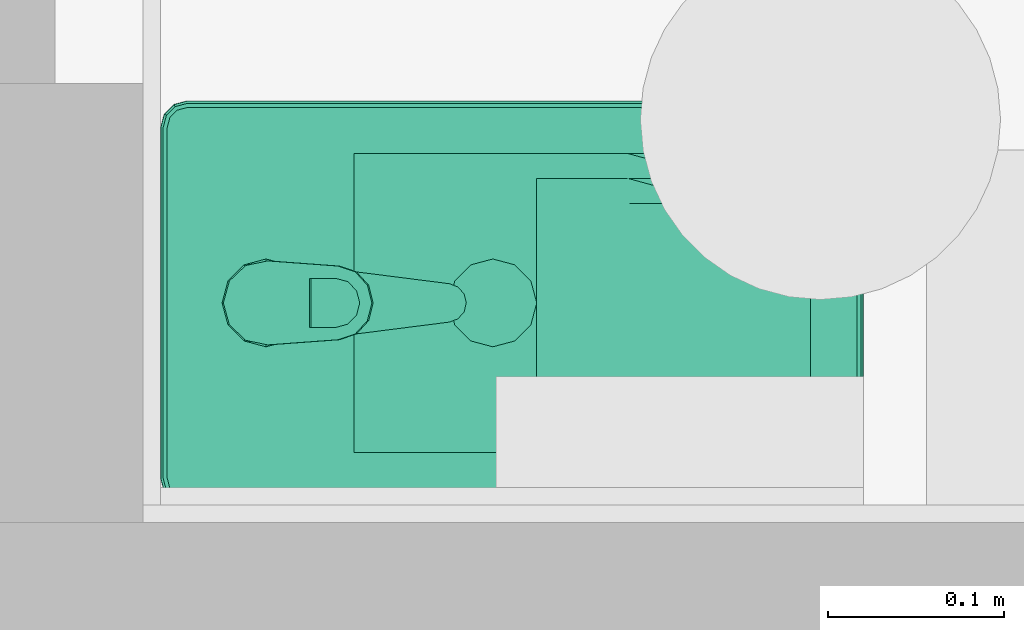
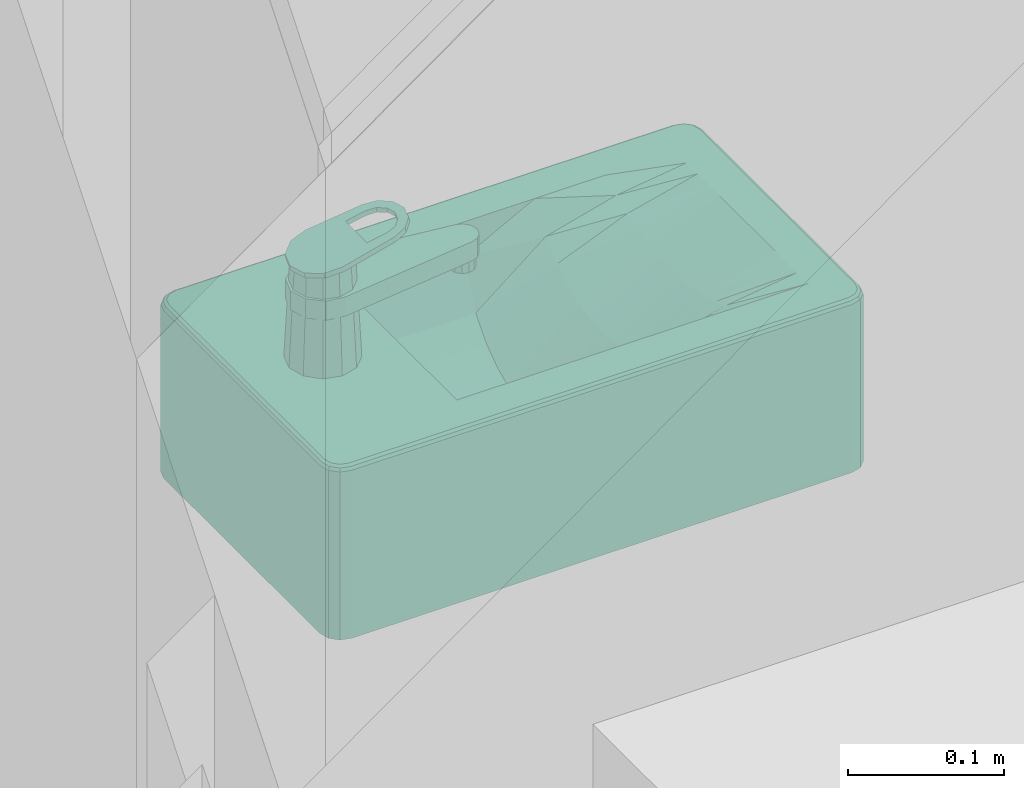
# One storey, part 259 of 301: 1 flow terminal.
"""IFC2X3 building model written with IfcOpenShell, lengths in millimetres."""

from ifc_helpers import new_model, entity, si_unit, converted_unit, derived_unit, money_unit, direction, frame, origin_with_axes, place, context, subcontext, project, spatial, open_shell, faceted_brep, surface_model, source, transform, mapped, type_object, element, save


model = new_model("IFC2X3")

# Units and contexts
model_context = context("Model", 3, precision=0.01, world=origin_with_axes(), true_north=direction((0.0, 1.0)))
body_context = subcontext(model_context, "Body", "Model", "MODEL_VIEW")
ifc_project = project(units=[si_unit("LENGTHUNIT", "METRE", prefix="MILLI"), si_unit("AREAUNIT", "SQUARE_METRE"), si_unit("VOLUMEUNIT", "CUBIC_METRE"), converted_unit("PLANEANGLEUNIT", "DEGREE", entity("IfcPlaneAngleMeasure", 0.0174532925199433), si_unit("PLANEANGLEUNIT", "RADIAN"), dimensions=[0, 0, 0, 0, 0, 0, 0]), money_unit("EUR"), converted_unit("TIMEUNIT", "Year", entity("IfcTimeMeasure", 31557600.0), si_unit("TIMEUNIT", "SECOND"), dimensions=[0, 0, 1, 0, 0, 0, 0]), si_unit("MASSUNIT", "GRAM", prefix="KILO"), si_unit("THERMODYNAMICTEMPERATUREUNIT", "DEGREE_CELSIUS"), si_unit("LUMINOUSINTENSITYUNIT", "LUMEN"), si_unit("ENERGYUNIT", "JOULE", prefix="MEGA"), derived_unit("THERMALCONDUCTANCEUNIT", [(si_unit("POWERUNIT", "WATT"), 1), (si_unit("LENGTHUNIT", "METRE"), -1), (si_unit("THERMODYNAMICTEMPERATUREUNIT", "KELVIN"), -1)]), derived_unit("SPECIFICHEATCAPACITYUNIT", [(si_unit("ENERGYUNIT", "JOULE"), 1), (si_unit("MASSUNIT", "GRAM", prefix="KILO"), -1), (si_unit("THERMODYNAMICTEMPERATUREUNIT", "KELVIN"), -1)]), derived_unit("MASSDENSITYUNIT", [(si_unit("MASSUNIT", "GRAM", prefix="KILO"), 1), (si_unit("VOLUMEUNIT", "CUBIC_METRE"), -1)])], contexts=[model_context])

# Site, building, storey
site_placement = place(None, frame((0.0, 0.0, 8650.0), z_axis=(0.0, 0.0, 1.0), x_axis=(1.0, 0.0, 0.0)))
site = spatial("IfcSite", under=ifc_project, at=site_placement, Name="43301:001:0844", CompositionType="ELEMENT")
building_placement = place(site_placement, origin_with_axes())
building = spatial("IfcBuilding", under=site, at=building_placement, Name="Kuressaare Ametikooli tuulikute mehaanikute õppekorpus", CompositionType="ELEMENT")
storey_placement = place(building_placement, origin_with_axes())
storey = spatial("IfcBuildingStorey", under=building, at=storey_placement, Name="1.korrus", CompositionType="ELEMENT", Elevation=0.0)

# Flow terminal
sanitary_terminal_type = type_object("IfcSanitaryTerminalType", Name="Basin 27", PredefinedType="NOTDEFINED")
shared_shape = source(origin_with_axes(), body_context, "Body", "SurfaceModel", [
    faceted_brep([(100.0, -400.0, 865.0), (-100.0, -400.0, 865.0), (-107.5, -397.9903810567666, 865.0), (-112.9903810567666, -392.5, 865.0), (-115.0, -385.0, 865.0), (-115.0, -14.99999999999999, 865.0), (-112.9903810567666, -7.500000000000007, 865.0), (-107.5, -2.009618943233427, 865.0), (-100.0, 0.0, 865.0), (100.0, 0.0, 865.0), (107.5, -2.009618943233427, 865.0), (112.9903810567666, -7.500000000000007, 865.0), (115.0, -14.99999999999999, 865.0), (115.0, -385.0, 865.0), (112.9903810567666, -392.5, 865.0), (107.5, -397.9903810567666, 865.0), (-85.0, -370.0, 865.0), (85.0, -370.0, 865.0), (85.0, -110.0, 865.0), (-85.0, -110.0, 865.0), (100.0000003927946, -400.0000003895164, 995.0), (-99.99999979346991, -400.0000003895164, 995.0), (-107.5000000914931, -397.9903813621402, 995.0), (-112.9903813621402, -392.5000000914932, 995.0), (-115.0000003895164, -384.99999979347, 995.0), (-115.0000003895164, -14.99999968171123, 995.0), (-112.9903813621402, -7.500000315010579, 995.0), (-107.5000000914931, -2.009619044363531, 995.0), (-99.99999979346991, -1.698735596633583e-08, 995.0), (100.0000003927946, -1.698735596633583e-08, 995.0), (107.4999997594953, -2.009619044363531, 995.0), (112.9903810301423, -7.500000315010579, 995.0), (115.0000000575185, -14.99999968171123, 995.0), (115.0000000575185, -384.99999979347, 995.0), (112.9903810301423, -392.5000000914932, 995.0), (107.4999997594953, -397.9903813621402, 995.0), (-85.0, -370.0, 999.9999996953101), (85.0, -370.0, 999.9999996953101), (85.0, -110.0, 999.9999996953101), (-85.0, -110.0, 999.9999996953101), (99.97757064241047, -399.8296295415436, 996.2940952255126), (-99.97757004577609, -399.8296295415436, 996.2940952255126), (-107.4118096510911, -397.8376310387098, 996.2940952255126), (-112.8376310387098, -392.4118096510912, 996.2940952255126), (-114.8296295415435, -384.9775700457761, 996.2940952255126), (-114.8296295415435, -15.02242943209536, 996.2940952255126), (-112.837631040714, -7.588190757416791, 996.2940952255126), (-107.4118096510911, -2.162369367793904, 996.2940952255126), (-99.97757004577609, -0.1703708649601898, 996.2940952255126), (99.97757064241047, -0.1703708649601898, 996.2940952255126), (107.4118093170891, -2.162369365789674, 996.2940952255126), (112.8376307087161, -7.588190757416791, 996.2940952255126), (114.8296292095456, -15.02242943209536, 996.2940952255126), (114.8296292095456, -384.9775700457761, 996.2940952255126), (112.8376307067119, -392.4118096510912, 996.2940952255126), (107.4118093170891, -397.8376310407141, 996.2940952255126), (-99.34173767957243, -4.999997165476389, 999.9999996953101), (-104.9118111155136, -6.492493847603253, 999.9999996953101), (-108.5075066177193, -10.08818934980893, 999.9999996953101), (-110.0000032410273, -15.65826187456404, 999.9999996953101), (-110.0000032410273, -384.3417376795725, 999.9999996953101), (-108.5075065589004, -389.9118111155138, 999.9999996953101), (-104.9118111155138, -393.5075065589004, 999.9999996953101), (-99.34173767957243, -395.0000032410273, 999.9999996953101), (99.34173819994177, -395.0000032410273, 999.9999996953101), (104.9118107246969, -393.5075066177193, 999.9999996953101), (108.5075062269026, -389.9118111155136, 999.9999996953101), (110.0000029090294, -384.3417376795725, 999.9999996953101), (110.0000029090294, -15.65826187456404, 999.9999996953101), (108.5075062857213, -10.08818934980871, 999.9999996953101), (104.9118107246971, -6.492493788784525, 999.9999996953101), (99.34173819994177, -4.999997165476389, 999.9999996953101), (99.80719978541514, -398.5355345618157, 998.5355339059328), (-99.80719920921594, -398.5355345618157, 998.5355339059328), (-106.7419367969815, -396.6773772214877, 998.5355339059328), (-111.6773772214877, -391.7419367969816, 998.5355339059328), (-113.5355345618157, -384.807199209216, 998.5355339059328), (-113.5355345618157, -15.1928002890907, 998.5355339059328), (-111.6773772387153, -8.258063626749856, 998.5355339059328), (-106.7419367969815, -3.322623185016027, 998.5355339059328), (-99.80719920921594, -1.464465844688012, 998.5355339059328), (99.80719978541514, -1.464465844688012, 998.5355339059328), (106.741936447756, -3.322623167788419, 998.5355339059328), (111.6773769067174, -8.258063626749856, 998.5355339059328), (113.5355342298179, -15.1928002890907, 998.5355339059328), (113.5355342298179, -384.807199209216, 998.5355339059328), (111.6773768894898, -391.7419367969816, 998.5355339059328), (106.741936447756, -396.6773772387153, 998.5355339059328), (-105.5816828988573, -5.332241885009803, 999.8296291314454), (-99.51210824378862, -3.70590425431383, 999.8296291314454), (-109.6677585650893, -9.41831755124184, 999.8296291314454), (-111.2940961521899, -15.48789128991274, 999.8296291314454), (-111.2940961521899, -384.5121082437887, 999.8296291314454), (-109.6677585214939, -390.5816828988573, 999.8296291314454), (-105.5816828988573, -394.667758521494, 999.8296291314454), (-99.51210824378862, -396.2940961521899, 999.8296291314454), (99.5121087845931, -396.2940961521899, 999.8296291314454), (105.581682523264, -394.6677585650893, 999.8296291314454), (109.667758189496, -390.5816828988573, 999.8296291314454), (111.294095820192, -384.5121082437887, 999.8296291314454), (111.294095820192, -15.48789128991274, 999.8296291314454), (109.6677582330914, -9.41831755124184, 999.8296291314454), (105.581682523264, -5.332241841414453, 999.8296291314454), (99.5121087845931, -3.70590425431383, 999.8296291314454)], [[[0, 1, 2, 3, 4, 5, 6, 7, 8, 9, 10, 11, 12, 13, 14, 15], [16, 17, 18, 19]], [[0, 20, 21, 1]], [[1, 21, 22, 2]], [[2, 22, 23, 3]], [[3, 23, 24, 4]], [[4, 24, 25, 5]], [[5, 25, 26, 6]], [[6, 26, 27, 7]], [[7, 27, 28, 8]], [[8, 28, 29, 9]], [[9, 29, 30, 10]], [[10, 30, 31, 11]], [[11, 31, 32, 12]], [[12, 32, 33, 13]], [[13, 33, 34, 14]], [[14, 34, 35, 15]], [[15, 35, 20, 0]], [[36, 37, 17, 16]], [[37, 38, 18, 17]], [[38, 39, 19, 18]], [[39, 36, 16, 19]], [[20, 40, 41, 21]], [[21, 41, 42, 22]], [[22, 42, 43, 23]], [[23, 43, 44, 24]], [[24, 44, 45, 25]], [[25, 45, 46, 26]], [[26, 46, 47, 27]], [[27, 47, 48, 28]], [[28, 48, 49, 29]], [[29, 49, 50, 30]], [[30, 50, 51, 31]], [[31, 51, 52, 32]], [[32, 52, 53, 33]], [[33, 53, 54, 34]], [[34, 54, 55, 35]], [[35, 55, 40, 20]], [[56, 57, 58, 59, 60, 61, 62, 63, 64, 65, 66, 67, 68, 69, 70, 71], [36, 39, 38, 37]], [[40, 72, 73, 41]], [[41, 73, 74, 42]], [[42, 74, 75, 43]], [[43, 75, 76, 44]], [[44, 76, 77, 45]], [[45, 77, 78, 46]], [[46, 78, 79, 47]], [[47, 79, 80, 48]], [[48, 80, 81, 49]], [[49, 81, 82, 50]], [[50, 82, 83, 51]], [[51, 83, 84, 52]], [[52, 84, 85, 53]], [[53, 85, 86, 54]], [[54, 86, 87, 55]], [[55, 87, 72, 40]], [[88, 57, 56, 89]], [[90, 58, 57, 88]], [[91, 59, 58, 90]], [[92, 60, 59, 91]], [[93, 61, 60, 92]], [[94, 62, 61, 93]], [[95, 63, 62, 94]], [[96, 64, 63, 95]], [[97, 65, 64, 96]], [[98, 66, 65, 97]], [[99, 67, 66, 98]], [[100, 68, 67, 99]], [[101, 69, 68, 100]], [[102, 70, 69, 101]], [[103, 71, 70, 102]], [[89, 56, 71, 103]], [[72, 96, 95, 73]], [[73, 95, 94, 74]], [[74, 94, 93, 75]], [[75, 93, 92, 76]], [[76, 92, 91, 77]], [[77, 91, 90, 78]], [[78, 90, 88, 79]], [[79, 88, 89, 80]], [[80, 89, 103, 81]], [[81, 103, 102, 82]], [[82, 102, 101, 83]], [[83, 101, 100, 84]], [[84, 100, 99, 85]], [[85, 99, 98, 86]], [[86, 98, 97, 87]], [[87, 97, 96, 72]]]),
    faceted_brep([(-85.0, -370.0, 865.0), (-85.0, -110.0, 865.0), (85.0, -110.0, 865.0), (85.0, -370.0, 865.0), (12.49999999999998, -210.733635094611, 865.0), (21.65063509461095, -201.583, 865.0), (25.0, -189.083, 865.0), (21.65063509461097, -176.583, 865.0), (12.50000000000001, -167.4323649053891, 865.0), (0.0, -164.083, 865.0), (-12.49999999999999, -167.4323649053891, 865.0), (-21.65063509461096, -176.583, 865.0), (-25.0, -189.083, 865.0), (-21.65063509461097, -201.583, 865.0), (-12.50000000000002, -210.733635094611, 865.0), (0.0, -214.083, 865.0), (-85.0, -266.0, 1000.0), (-85.0, -214.0, 972.25), (-85.0, -162.0, 972.25), (-85.0, -110.0, 972.25), (-85.0, -370.0, 1000.0), (-85.0, -318.0, 1000.0), (42.49999999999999, -110.0, 911.2166184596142), (56.66666666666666, -110.0, 921.2681999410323), (70.83333333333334, -110.0, 937.1336281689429), (85.0, -110.0, 972.2499999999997), (-70.83333333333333, -110.0, 937.133628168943), (-56.66666666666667, -110.0, 921.2681999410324), (-42.5, -110.0, 911.2166184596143), (-28.33333333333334, -110.0, 904.7939613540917), (-14.16666666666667, -110.0, 901.173124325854), (0.0, -110.0, 900.0), (14.16666666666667, -110.0, 901.173124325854), (28.33333333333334, -110.0, 904.7939613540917), (85.0, -214.0, 972.2499999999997), (85.0, -266.0, 999.9999999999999), (85.0, -318.0, 1000.0), (85.0, -370.0, 1000.0), (85.0, -162.0, 972.2499999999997), (-42.5, -370.0, 1000.0), (-56.66666666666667, -370.0, 1000.0), (-70.83333333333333, -370.0, 1000.0), (70.83333333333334, -370.0, 1000.0), (56.66666666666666, -370.0, 1000.0), (42.49999999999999, -370.0, 1000.0), (28.33333333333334, -370.0, 1000.0), (14.16666666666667, -370.0, 1000.0), (0.0, -370.0, 1000.0), (-14.16666666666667, -370.0, 1000.0), (-28.33333333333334, -370.0, 1000.0), (14.16666666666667, -209.0669684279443, 901.173124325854), (21.65063509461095, -201.583, 903.0859405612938), (12.49999999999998, -210.733635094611, 901.0351096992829), (25.0, -189.083, 903.9419997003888), (21.65063509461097, -176.583, 903.0859405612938), (14.16666666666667, -169.0990315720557, 901.173124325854), (12.50000000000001, -167.4323649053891, 901.035109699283), (0.0, -164.083, 900.0), (-12.49999999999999, -167.4323649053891, 901.035109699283), (-14.16666666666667, -169.0990315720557, 901.173124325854), (-21.65063509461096, -176.583, 903.0859405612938), (-25.0, -189.083, 903.9419997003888), (-21.65063509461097, -201.583, 903.0859405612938), (-14.16666666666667, -209.0669684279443, 901.173124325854), (-12.50000000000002, -210.733635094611, 901.035109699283), (-0.02107381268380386, -214.0773532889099, 900.0716455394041), (0.0, -214.083, 900.0751753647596), (-0.3097602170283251, -214.0, 900.0256508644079), (0.3097602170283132, -214.0, 900.0256508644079), (-70.83333333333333, -214.0, 937.133628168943), (-70.83333333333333, -162.0, 937.133628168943), (-70.83333333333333, -318.0, 992.8049756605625), (-70.83333333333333, -266.0, 978.92400992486), (56.66666666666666, -162.0, 921.2681999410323), (42.49999999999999, -162.0, 911.2166184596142), (70.83333333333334, -162.0, 937.1336281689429), (-56.66666666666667, -162.0, 921.2681999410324), (-42.5, -162.0, 911.2166184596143), (-28.33333333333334, -162.0, 904.7939613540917), (-14.16666666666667, -162.0, 901.173124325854), (0.0, -162.0, 900.0), (14.16666666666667, -162.0, 901.173124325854), (28.33333333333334, -162.0, 904.7939613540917), (70.83333333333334, -266.0, 978.92400992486), (70.83333333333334, -318.0, 992.8049756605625), (70.83333333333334, -214.0, 937.1336281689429), (-42.5, -318.0, 982.8921917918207), (-56.66666666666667, -318.0, 987.1546857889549), (56.66666666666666, -318.0, 987.1546857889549), (42.49999999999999, -318.0, 982.8921917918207), (28.33333333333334, -318.0, 979.9130117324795), (14.16666666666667, -318.0, 978.1503189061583), (0.0, -318.0, 977.5667630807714), (-14.16666666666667, -318.0, 978.1503189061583), (-28.33333333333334, -318.0, 979.9130117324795), (14.16666666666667, -214.0, 901.173124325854), (28.33333333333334, -214.0, 904.7939613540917), (-28.33333333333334, -214.0, 904.7939613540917), (-14.16666666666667, -214.0, 901.173124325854), (-14.16666666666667, -266.0, 948.1630206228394), (0.0, -266.0, 947.0978188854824), (-56.66666666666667, -214.0, 921.2681999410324), (56.66666666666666, -214.0, 921.2681999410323), (42.49999999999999, -214.0, 911.2166184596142), (-42.5, -214.0, 911.2166184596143), (14.16666666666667, -266.0, 948.1630206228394), (-28.33333333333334, -266.0, 951.4339022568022), (-56.66666666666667, -266.0, 965.9137620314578), (42.49999999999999, -266.0, 957.1657026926), (56.66666666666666, -266.0, 965.9137620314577), (-42.5, -266.0, 957.1657026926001), (28.33333333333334, -266.0, 951.4339022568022)], [[[0, 1, 2, 3], [4, 5, 6, 7, 8, 9, 10, 11, 12, 13, 14, 15]], [[16, 17, 18, 19, 1, 0, 20, 21]], [[22, 23, 24, 25, 2, 1, 19, 26, 27, 28, 29, 30, 31, 32, 33]], [[34, 35, 36, 37, 3, 2, 25, 38]], [[39, 40, 41, 20, 0, 3, 37, 42, 43, 44, 45, 46, 47, 48, 49]], [[50, 51, 5, 4, 52]], [[51, 53, 6, 5]], [[53, 54, 7, 6]], [[54, 55, 56, 8, 7]], [[56, 57, 9, 8]], [[57, 58, 10, 9]], [[58, 59, 60, 11, 10]], [[60, 61, 12, 11]], [[61, 62, 13, 12]], [[63, 64, 14, 13, 62]], [[65, 66, 15, 14, 64, 67]], [[68, 52, 4, 15, 66]], [[16, 69, 17]], [[69, 70, 18, 17]], [[70, 26, 19, 18]], [[20, 71, 21]], [[21, 72, 16]], [[73, 23, 22, 74]], [[75, 24, 23, 73]], [[38, 25, 24, 75]], [[76, 27, 26, 70]], [[77, 28, 27, 76]], [[78, 29, 28, 77]], [[79, 30, 29, 78]], [[80, 31, 30, 79]], [[81, 32, 31, 80]], [[82, 33, 32, 81]], [[74, 22, 33, 82]], [[83, 35, 34]], [[84, 36, 35]], [[42, 37, 36]], [[34, 38, 75, 85]], [[40, 39, 86]], [[41, 40, 87]], [[20, 41, 71]], [[43, 42, 84]], [[44, 43, 88]], [[45, 44, 89]], [[46, 45, 90]], [[47, 46, 91]], [[48, 47, 92]], [[49, 48, 93]], [[39, 49, 94]], [[55, 54, 53, 51, 50, 95, 96, 82, 81]], [[52, 68, 95, 50]], [[56, 55, 81, 80, 57]], [[58, 57, 80, 79, 59]], [[60, 59, 79, 78, 97, 98, 63, 62, 61]], [[64, 63, 98, 67]], [[66, 65, 99, 100]], [[65, 67, 98, 99]], [[68, 66, 100, 95]], [[16, 72, 69]], [[101, 76, 70, 69]], [[21, 71, 72]], [[102, 73, 74, 103]], [[85, 75, 73, 102]], [[104, 77, 76, 101]], [[97, 78, 77, 104]], [[103, 74, 82, 96]], [[84, 35, 83]], [[83, 34, 85]], [[42, 36, 84]], [[39, 94, 86]], [[40, 86, 87]], [[41, 87, 71]], [[43, 84, 88]], [[44, 88, 89]], [[45, 89, 90]], [[46, 90, 91]], [[47, 91, 92]], [[48, 92, 93]], [[49, 93, 94]], [[105, 96, 95]], [[106, 98, 97]], [[93, 100, 99]], [[106, 99, 98]], [[100, 105, 95]], [[72, 101, 69]], [[71, 107, 72]], [[108, 102, 103]], [[109, 85, 102]], [[107, 104, 101]], [[110, 97, 104]], [[111, 103, 96]], [[88, 84, 83]], [[109, 83, 85]], [[86, 94, 106]], [[87, 86, 110]], [[71, 87, 107]], [[89, 88, 109]], [[90, 89, 108]], [[91, 90, 111]], [[92, 91, 105]], [[93, 92, 100]], [[94, 93, 99]], [[105, 111, 96]], [[110, 106, 97]], [[94, 99, 106]], [[92, 105, 100]], [[72, 107, 101]], [[108, 109, 102]], [[111, 108, 103]], [[107, 110, 104]], [[88, 83, 109]], [[86, 106, 110]], [[87, 110, 107]], [[89, 109, 108]], [[90, 108, 111]], [[91, 111, 105]]]),
    faceted_brep([(21.65063509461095, -201.583, 900.0), (12.49999999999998, -210.733635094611, 900.0), (0.0, -214.083, 900.0), (-12.50000000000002, -210.733635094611, 900.0), (-21.65063509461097, -201.583, 900.0), (-25.0, -189.083, 900.0), (-21.65063509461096, -176.583, 900.0), (-12.49999999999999, -167.4323649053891, 900.0), (0.0, -164.083, 900.0), (12.50000000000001, -167.4323649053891, 900.0), (21.65063509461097, -176.583, 900.0), (25.0, -189.083, 900.0), (21.65063509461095, -201.583, 905.0), (12.49999999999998, -210.733635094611, 905.0), (0.0, -214.083, 905.0), (-12.50000000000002, -210.733635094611, 905.0), (-21.65063509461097, -201.583, 905.0), (-25.0, -189.083, 905.0), (-21.65063509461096, -176.583, 905.0), (-12.49999999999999, -167.4323649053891, 905.0), (0.0, -164.083, 905.0), (12.50000000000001, -167.4323649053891, 905.0), (21.65063509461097, -176.583, 905.0), (25.0, -189.083, 905.0)], [[[0, 1, 2, 3, 4, 5, 6, 7, 8, 9, 10, 11]], [[1, 0, 12, 13]], [[2, 1, 13, 14]], [[3, 2, 14, 15]], [[4, 3, 15, 16]], [[5, 4, 16, 17]], [[6, 5, 17, 18]], [[7, 6, 18, 19]], [[8, 7, 19, 20]], [[9, 8, 20, 21]], [[10, 9, 21, 22]], [[11, 10, 22, 23]], [[0, 11, 23, 12]], [[12, 23, 22, 21, 20, 19, 18, 17, 16, 15, 14, 13]]]),
    surface_model("IfcShellBasedSurfaceModel", [(0.0, -189.083, 907.0), (0.0, -176.46109443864, 906.4975737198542), (-6.310952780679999, -178.1521091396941, 906.4975737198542), (6.310952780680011, -178.1521091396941, 906.4975737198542), (0.0, -164.083, 905.0), (-12.5, -167.4323649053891, 905.0), (-10.93089086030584, -182.77204721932, 906.4975737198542), (10.93089086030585, -182.77204721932, 906.4975737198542), (12.50000000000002, -167.4323649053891, 905.0), (-21.65063509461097, -176.583, 905.0), (-12.62190556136, -189.083, 906.4975737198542), (12.62190556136, -189.083, 906.4975737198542), (21.65063509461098, -176.583, 905.0), (-25.0, -189.083, 905.0), (-10.93089086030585, -195.39395278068, 906.4975737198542), (10.93089086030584, -195.39395278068, 906.4975737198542), (25.0, -189.083, 905.0), (-21.65063509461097, -201.583, 905.0), (-6.310952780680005, -200.0138908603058, 906.4975737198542), (6.310952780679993, -200.0138908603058, 906.4975737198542), (21.65063509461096, -201.583, 905.0), (-12.50000000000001, -210.733635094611, 905.0), (0.0, -201.70490556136, 906.4975737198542), (12.49999999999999, -210.733635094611, 905.0), (0.0, -214.083, 905.0)], [open_shell([[[0, 1, 2]], [[0, 3, 1]], [[2, 1, 4, 5]], [[0, 2, 6]], [[0, 7, 3]], [[1, 3, 8, 4]], [[6, 2, 5, 9]], [[0, 6, 10]], [[0, 11, 7]], [[3, 7, 12, 8]], [[10, 6, 9, 13]], [[0, 10, 14]], [[0, 15, 11]], [[7, 11, 16, 12]], [[14, 10, 13, 17]], [[0, 14, 18]], [[0, 19, 15]], [[11, 15, 20, 16]], [[18, 14, 17, 21]], [[0, 18, 22]], [[0, 22, 19]], [[15, 19, 23, 20]], [[22, 18, 21, 24]], [[19, 22, 24, 23]]])]),
    faceted_brep([(12.50000000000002, -38.34936490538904, 1000.0), (0.0, -34.99999999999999, 1000.0), (0.0, -38.79807692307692, 1075.961538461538), (10.587322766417, -41.66221905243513, 1076.507089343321), (21.65063509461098, -47.50000000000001, 1000.0), (25.0, -60.00000000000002, 1000.0), (21.65063509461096, -72.50000000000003, 1000.0), (12.49999999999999, -81.65063509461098, 1000.0), (0.0, -84.99999999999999, 1000.0), (-12.50000000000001, -81.65063509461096, 1000.0), (-21.65063509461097, -72.5, 1000.0), (-25.0, -59.99999999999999, 1000.0), (-21.65063509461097, -47.49999999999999, 1000.0), (-12.5, -38.34936490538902, 1000.0), (-10.58732276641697, -41.66221905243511, 1076.507089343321), (-18.27355038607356, -49.44976076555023, 1077.99043062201), (-21.0, -59.99999999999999, 1080.0), (-18.10034137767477, -70.45023696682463, 1081.990521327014), (-10.41410590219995, -78.0377605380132, 1083.435763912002), (0.0, -80.80188679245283, 1083.962264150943), (10.41410590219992, -78.03776053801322, 1083.435763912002), (18.10034137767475, -70.45023696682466, 1081.990521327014), (21.0, -60.00000000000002, 1080.0), (18.27355038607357, -49.44976076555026, 1077.99043062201)], [[[0, 1, 2, 3]], [[0, 4, 5, 6, 7, 8, 9, 10, 11, 12, 13, 1]], [[1, 13, 14, 2]], [[3, 2, 14, 15, 16, 17, 18, 19, 20, 21, 22, 23]], [[4, 0, 3, 23]], [[5, 4, 23, 22]], [[6, 5, 22, 21]], [[7, 6, 21, 20]], [[8, 7, 20, 19]], [[9, 8, 19, 18]], [[10, 9, 18, 17]], [[11, 10, 17, 16]], [[12, 11, 16, 15]], [[13, 12, 15, 14]]]),
    faceted_brep([(9.000000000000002, -163.0, 1035.0), (7.794228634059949, -158.5, 1035.0), (7.794228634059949, -158.5, 1045.0), (9.000000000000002, -163.0, 1045.0), (7.794228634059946, -167.5, 1035.0), (4.499999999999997, -170.79422863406, 1035.0), (0.0, -172.0, 1035.0), (-4.500000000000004, -170.79422863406, 1035.0), (-7.794228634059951, -167.5, 1035.0), (-9.000000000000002, -163.0, 1035.0), (-7.794228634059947, -158.5, 1035.0), (-4.499999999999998, -155.2057713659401, 1035.0), (0.0, -154.0, 1035.0), (4.500000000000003, -155.2057713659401, 1035.0), (4.500000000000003, -155.2057713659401, 1045.0), (0.0, -154.0, 1045.0), (-4.499999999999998, -155.2057713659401, 1045.0), (-7.794228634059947, -158.5, 1045.0), (-9.000000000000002, -163.0, 1045.0), (-7.794228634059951, -167.5, 1045.0), (-4.500000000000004, -170.79422863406, 1045.0), (0.0, -172.0, 1045.0), (4.499999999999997, -170.79422863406, 1045.0), (7.794228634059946, -167.5, 1045.0)], [[[0, 1, 2, 3]], [[0, 4, 5, 6, 7, 8, 9, 10, 11, 12, 13, 1]], [[1, 13, 14, 2]], [[3, 2, 14, 15, 16, 17, 18, 19, 20, 21, 22, 23]], [[4, 0, 3, 23]], [[5, 4, 23, 22]], [[6, 5, 22, 21]], [[7, 6, 21, 20]], [[8, 7, 20, 19]], [[9, 8, 19, 18]], [[10, 9, 18, 17]], [[11, 10, 17, 16]], [[12, 11, 16, 15]], [[13, 12, 15, 14]]]),
    faceted_brep([(-12.87171762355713, -39.74369617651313, 1060.0), (-21.72780530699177, -49.80679463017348, 1060.0), (-23.8054, -63.04989999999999, 1060.0), (-10.9119908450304, -164.3883719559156, 1060.0), (-9.02887546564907, -169.2831941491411, 1060.0), (-5.093324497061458, -172.7497264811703, 1060.0), (3.626798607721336e-05, -173.9999600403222, 1060.0), (5.093388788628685, -172.7496928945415, 1060.0), (9.02891689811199, -169.2831346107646, 1060.0), (10.912, -164.3883, 1060.0), (23.80539974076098, -63.04990202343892, 1060.0), (21.72780617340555, -49.80679647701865, 1060.0), (12.87171934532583, -39.74369727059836, 1060.0), (1.019988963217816e-06, -36.00002168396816, 1060.0), (11.00000000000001, -40.94744111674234, 1060.0), (19.05255888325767, -48.99999999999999, 1060.0), (22.00000000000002, -60.0, 1060.0), (19.05255888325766, -71.00000000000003, 1060.0), (10.99999999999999, -79.05255888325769, 1060.0), (0.0, -82.0, 1060.0), (-11.00000000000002, -79.05255888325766, 1060.0), (-19.05255888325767, -70.99999999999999, 1060.0), (-22.00000000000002, -59.99999999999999, 1060.0), (-19.05255888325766, -48.99999999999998, 1060.0), (-11.0, -40.94744111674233, 1060.0), (0.0, -37.99999999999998, 1060.0), (-21.72780530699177, -49.80679463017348, 1045.0), (-12.87171762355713, -39.74369617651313, 1045.0), (-23.8054, -63.04989999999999, 1045.0), (-10.9119908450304, -164.3883719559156, 1045.0), (-9.02887546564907, -169.2831941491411, 1045.0), (-5.093324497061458, -172.7497264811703, 1045.0), (3.626798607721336e-05, -173.9999600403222, 1045.0), (5.093388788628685, -172.7496928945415, 1045.0), (9.02891689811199, -169.2831346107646, 1045.0), (10.912, -164.3883, 1045.0), (23.80539974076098, -63.04990202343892, 1045.0), (21.72780617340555, -49.80679647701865, 1045.0), (12.87171934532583, -39.74369727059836, 1045.0), (1.019988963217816e-06, -36.00002168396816, 1045.0), (11.37500000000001, -40.297922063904, 1045.0), (19.70207793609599, -48.62499999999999, 1045.0), (22.75000000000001, -60.0, 1045.0), (19.70207793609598, -71.37500000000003, 1045.0), (11.37499999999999, -79.702077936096, 1045.0), (0.0, -82.75, 1045.0), (-11.37500000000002, -79.70207793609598, 1045.0), (-19.70207793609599, -71.375, 1045.0), (-22.75000000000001, -59.99999999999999, 1045.0), (-19.70207793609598, -48.62499999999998, 1045.0), (-11.375, -40.297922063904, 1045.0), (0.0, -37.24999999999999, 1045.0)], [[[0, 1, 2, 3, 4, 5, 6, 7, 8, 9, 10, 11, 12, 13], [14, 15, 16, 17, 18, 19, 20, 21, 22, 23, 24, 25]], [[26, 1, 0, 27]], [[28, 2, 1, 26]], [[29, 3, 2, 28]], [[30, 4, 3, 29]], [[31, 5, 4, 30]], [[32, 6, 5, 31]], [[33, 7, 6, 32]], [[34, 8, 7, 33]], [[35, 9, 8, 34]], [[36, 10, 9, 35]], [[37, 11, 10, 36]], [[38, 12, 11, 37]], [[39, 13, 12, 38]], [[27, 0, 13, 39]], [[40, 41, 15, 14]], [[41, 42, 16, 15]], [[42, 43, 17, 16]], [[43, 44, 18, 17]], [[44, 45, 19, 18]], [[20, 19, 45, 46]], [[21, 20, 46, 47]], [[22, 21, 47, 48]], [[23, 22, 48, 49]], [[24, 23, 49, 50]], [[50, 51, 25, 24]], [[51, 40, 14, 25]], [[32, 31, 30, 29, 28, 26, 27, 39, 38, 37, 36, 35, 34, 33], [44, 43, 42, 41, 40, 51, 50, 49, 48, 47, 46, 45]]]),
    faceted_brep([(23.893, -61.69256934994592, 1080.322394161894), (21.29642141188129, -49.22528119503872, 1077.947672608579), (21.29642141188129, -48.47683276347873, 1081.877026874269), (23.893, -60.94412091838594, 1084.251748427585), (20.94593649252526, -101.8367022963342, 1087.968895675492), (17.66313911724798, -111.514366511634, 1089.81226028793), (10.06143529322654, -118.4637460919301, 1091.135951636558), (-0.0004426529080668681, -120.9856119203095, 1091.61630703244), (-10.06221236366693, -118.4633294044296, 1091.13587226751), (-17.66361794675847, -111.5136350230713, 1089.812120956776), (-20.946, -101.8358348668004, 1087.968730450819), (-23.89302047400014, -61.69229042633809, 1080.322341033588), (-21.29629106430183, -49.22503258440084, 1077.947625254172), (-12.4716815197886, -39.90880255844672, 1076.173105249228), (0.0001423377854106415, -36.46803549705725, 1075.517721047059), (12.47192457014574, -39.90894815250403, 1076.173132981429), (14.0, -85.54080272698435, 1084.86491480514), (-14.0, -85.54080272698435, 1084.86491480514), (-14.0, -100.3564329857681, 1087.686939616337), (-12.12435565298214, -107.2328029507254, 1088.996724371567), (-7.000000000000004, -112.2666551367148, 1089.955553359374), (0.0, -114.1091729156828, 1090.306509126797), (6.999999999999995, -112.2666551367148, 1089.955553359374), (12.12435565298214, -107.2328029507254, 1088.996724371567), (14.0, -100.3564329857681, 1087.686939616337), (12.47192457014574, -39.16049972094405, 1080.102487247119), (0.0001423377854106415, -35.71958706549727, 1079.447075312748), (-12.4716815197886, -39.16035412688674, 1080.102459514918), (-21.29629106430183, -48.47658415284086, 1081.876979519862), (-23.89302047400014, -60.9438419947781, 1084.251695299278), (-20.946, -101.0873864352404, 1091.898084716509), (-17.66361794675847, -110.7651865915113, 1093.741475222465), (-10.06221236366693, -117.7148809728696, 1095.0652265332), (-0.0004426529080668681, -120.2371634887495, 1095.54566129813), (10.06143529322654, -117.7152976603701, 1095.065305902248), (17.66313911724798, -110.765918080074, 1093.74161455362), (20.94593649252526, -101.0882538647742, 1091.898249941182), (14.0, -84.79235429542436, 1088.79426907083), (14.0, -99.60798455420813, 1091.616293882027), (12.12435565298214, -106.4843545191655, 1092.926078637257), (6.999999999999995, -111.5182067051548, 1093.884907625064), (0.0, -113.3607244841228, 1094.235863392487), (-7.000000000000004, -111.5182067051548, 1093.884907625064), (-12.12435565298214, -106.4843545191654, 1092.926078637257), (-14.0, -99.60798455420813, 1091.616293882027), (-14.0, -84.79235429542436, 1088.79426907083)], [[[0, 1, 2, 3]], [[0, 4, 5, 6, 7, 8, 9, 10, 11, 12, 13, 14, 15, 1], [16, 17, 18, 19, 20, 21, 22, 23, 24]], [[1, 15, 25, 2]], [[3, 2, 25, 26, 27, 28, 29, 30, 31, 32, 33, 34, 35, 36], [37, 38, 39, 40, 41, 42, 43, 44, 45]], [[4, 0, 3, 36]], [[5, 4, 36, 35]], [[6, 5, 35, 34]], [[7, 6, 34, 33]], [[8, 7, 33, 32]], [[9, 8, 32, 31]], [[10, 9, 31, 30]], [[11, 10, 30, 29]], [[12, 11, 29, 28]], [[13, 12, 28, 27]], [[14, 13, 27, 26]], [[15, 14, 26, 25]], [[17, 16, 37, 45]], [[18, 17, 45, 44]], [[19, 18, 44, 43]], [[20, 19, 43, 42]], [[21, 20, 42, 41]], [[22, 21, 41, 40]], [[23, 22, 40, 39]], [[24, 23, 39, 38]], [[16, 24, 38, 37]]]),
])
flow_terminal_placement = place(storey_placement, frame((125215.2608274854, 20199.47127887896, 0.0), z_axis=(0.0, 0.0, 1.0), x_axis=(0.0, 1.0, 0.0)))
element("IfcFlowTerminal", 1, at=flow_terminal_placement, inside=storey, type_object=sanitary_terminal_type, Name="V2", context=body_context, shape_type="MappedRepresentation", body=[
    mapped(shared_shape, transform((0.0, 0.0, 0.0))),
])

save(model, "model.ifc")
